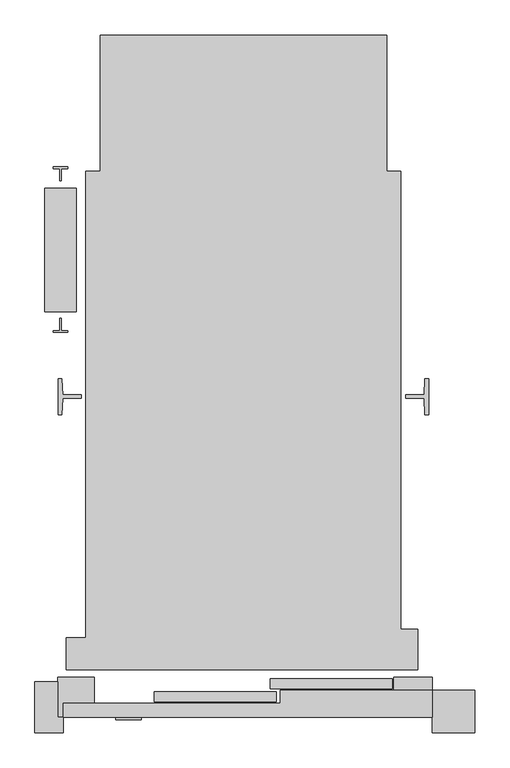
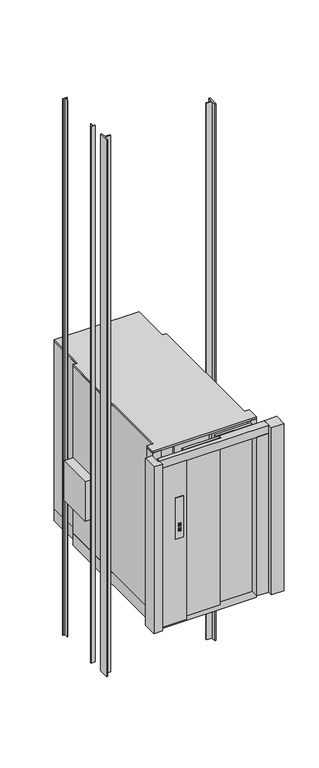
"""IFC4 building model written with IfcOpenShell, lengths in millimetres: proxy geometry, エレベータ住宅用 - トランク付 : 9 人乗."""

from ifc_helpers import new_model, si_unit, frame, origin, origin_with_axes, place, context, project, spatial, polyline, outline, extrude, source, transform, mapped, element, save


def mechanical_equipment_0a9e674c(model_context):
    return source(origin(), model_context, "Body", "SweptSolid", [
        extrude(outline(polyline([(-315.0, 5.0), (-315.0, 41.0), (115.0, 41.0), (115.0, 5.0), (-315.0, 5.0)])), origin_with_axes(), (0.0, 0.0, 1.0), 2100.0),
        extrude(outline(polyline([(95.0, 49.9), (95.0, 85.9), (525.0, 85.9), (525.0, 49.9), (95.0, 49.9)])), origin_with_axes(), (0.0, 0.0, 1.0), 2100.0),
        extrude(outline(polyline([(-315.0, 232.3), (115.0, 232.3), (115.0, 196.3), (-315.0, 196.3), (-315.0, 232.3)])), origin_with_axes(), (0.0, 0.0, 1.0), 2100.0),
        extrude(outline(polyline([(95.0, 187.4), (525.0, 187.4), (525.0, 151.4), (95.0, 151.4), (95.0, 187.4)])), origin_with_axes(), (0.0, 0.0, 1.0), 2100.0),
        extrude(outline(polyline([(665.0, 90.9), (665.0, -49.1), (525.0, -49.1), (525.0, 44.9), (530.0, 44.9), (530.0, 90.9), (665.0, 90.9)])), origin_with_axes(), (0.0, 0.0, 1.0), 2000.0),
        extrude(outline(polyline([(-315.0, -49.1), (-655.0, -49.1), (-655.0, 90.9), (-525.0, 90.9), (-525.0, 0.0), (-315.0, 0.0), (-315.0, -49.1)])), origin_with_axes(), (0.0, 0.0, 1.0), 2000.0),
        extrude(outline(polyline([(665.0, 44.9), (665.0, -49.1), (-635.0, -49.1), (-635.0, 0.0), (130.0, 0.0), (130.0, 44.9), (665.0, 44.9)])), frame((0.0, 0.0, 2000.0), z_axis=(0.0, 0.0, 1.0), x_axis=(1.0, 0.0, 0.0)), (0.0, 0.0, 1.0), 100.0),
        extrude(outline(polyline([(665.0, 44.9), (815.0, 44.9), (815.0, -105.0), (665.0, -105.0), (665.0, 44.9)])), origin_with_axes(), (0.0, 0.0, 1.0), 2100.0),
        extrude(outline(polyline([(-735.0, 75.0), (-655.0, 75.0), (-655.0, -49.1), (-635.0, -49.1), (-635.0, -105.0), (-735.0, -105.0), (-735.0, 75.0)])), origin_with_axes(), (0.0, 0.0, 1.0), 2100.0),
        extrude(outline(polyline([(-295.0, 237.3), (-525.0, 237.3), (-525.0, 118.4), (-625.0, 118.4), (-625.0, 230.0), (-555.0, 230.0), (-555.0, 1875.0), (-505.0, 1875.0), (-505.0, 2355.0), (505.0, 2355.0), (505.0, 1875.0), (555.0, 1875.0), (555.0, 260.0), (615.0, 260.0), (615.0, 118.4), (540.0, 118.4), (540.0, 192.4), (515.0, 192.4), (515.0, 300.0), (525.0, 300.0), (525.0, 1845.0), (475.0, 1845.0), (475.0, 2325.0), (-475.0, 2325.0), (-475.0, 1845.0), (-525.0, 1845.0), (-525.0, 350.0), (-410.0, 350.0), (-295.0, 300.0), (-295.0, 237.3)])), origin_with_axes(), (0.0, 0.0, 1.0), 2100.0),
        extrude(outline(polyline([(-555.0, 230.0), (-555.0, 1875.0), (-505.0, 1875.0), (-505.0, 2355.0), (505.0, 2355.0), (505.0, 1875.0), (555.0, 1875.0), (555.0, 260.0), (615.0, 260.0), (615.0, 118.4), (-625.0, 118.4), (-625.0, 230.0), (-555.0, 230.0)])), frame((0.0, 0.0, -150.0), z_axis=(0.0, 0.0, 1.0), x_axis=(1.0, 0.0, 0.0)), (0.0, 0.0, 1.0), 150.0),
        extrude(outline(polyline([(615.0, 118.4), (-625.0, 118.4), (-625.0, 230.0), (-555.0, 230.0), (-555.0, 1875.0), (-505.0, 1875.0), (-505.0, 2355.0), (505.0, 2355.0), (505.0, 1875.0), (555.0, 1875.0), (555.0, 260.0), (615.0, 260.0), (615.0, 118.4)])), frame((0.0, 0.0, 2100.0), z_axis=(0.0, 0.0, 1.0), x_axis=(1.0, 0.0, 0.0)), (0.0, 0.0, 1.0), 25.0),
        extrude(outline(polyline([(0.0, 1845.0), (-475.0, 1845.0), (-475.0, 1875.0), (0.0, 1875.0), (0.0, 1845.0)])), origin_with_axes(), (0.0, 0.0, 1.0), 1500.0),
        extrude(outline(polyline([(0.0, 1845.0), (0.0, 1875.0), (475.0, 1875.0), (475.0, 1845.0), (0.0, 1845.0)])), origin_with_axes(), (0.0, 0.0, 1.0), 1500.0),
        extrude(outline(polyline([(475.0, 1875.0), (475.0, 1845.0), (-475.0, 1845.0), (-475.0, 1875.0), (475.0, 1875.0)])), frame((0.0, 0.0, 1500.0), z_axis=(0.0, 0.0, 1.0), x_axis=(1.0, 0.0, 0.0)), (0.0, 0.0, 1.0), 600.0),
        extrude(outline(polyline([(1574.9827702, -359.7341332), (1574.9827702, -449.7341332), (1059.9827702, -449.7341332), (1059.9827702, -359.7341332), (1574.9827702, -359.7341332)]), holes=[polyline([(1189.7642913, -389.7341332), (1149.7642913, -389.7341332), (1149.7642913, -419.7341332), (1189.7642913, -419.7341332), (1189.7642913, -389.7341332)]), polyline([(1209.7642913, -419.7341332), (1249.7642913, -419.7341332), (1249.7642913, -389.7341332), (1209.7642913, -389.7341332), (1209.7642913, -419.7341332)])]), frame((0.0, -59.1, 0.0), z_axis=(0.0, 1.0, 0.0), x_axis=(0.0, 0.0, 1.0)), (0.0, 0.0, 1.0), 10.0),
        extrude(outline(polyline([(1249.7642913, -419.7341332), (1209.7642913, -419.7341332), (1209.7642913, -389.7341332), (1249.7642913, -389.7341332), (1249.7642913, -419.7341332)]), holes=[polyline([(1222.4437832, -414.7341332), (1239.7642913, -404.7341332), (1222.4437832, -394.7341332), (1222.4437832, -414.7341332)])]), frame((0.0, -59.1, 0.0), z_axis=(0.0, 1.0, 0.0), x_axis=(0.0, 0.0, 1.0)), (0.0, 0.0, 1.0), 5.0),
        extrude(outline(polyline([(1189.7642913, -419.7341332), (1149.7642913, -419.7341332), (1149.7642913, -389.7341332), (1189.7642913, -389.7341332), (1189.7642913, -419.7341332)]), holes=[polyline([(1177.0847993, -394.7341332), (1159.7642913, -404.7341332), (1177.0847993, -414.7341332), (1177.0847993, -394.7341332)])]), frame((0.0, -59.1, 0.0), z_axis=(0.0, 1.0, 0.0), x_axis=(0.0, 0.0, 1.0)), (0.0, 0.0, 1.0), 5.0),
        extrude(outline(polyline([(1239.7642913, -404.7341332), (1222.4437832, -414.7341332), (1222.4437832, -394.7341332), (1239.7642913, -404.7341332)])), frame((0.0, -59.1, 0.0), z_axis=(0.0, 1.0, 0.0), x_axis=(0.0, 0.0, 1.0)), (0.0, 0.0, 1.0), 5.0),
        extrude(outline(polyline([(1177.0847993, -414.7341332), (1159.7642913, -404.7341332), (1177.0847993, -394.7341332), (1177.0847993, -414.7341332)])), frame((0.0, -59.1, 0.0), z_axis=(0.0, 1.0, 0.0), x_axis=(0.0, 0.0, 1.0)), (0.0, 0.0, 1.0), 5.0),
        extrude(outline(polyline([(-636.9999995, 1073.7521919), (-639.9999995, 1016.5525318), (-652.9999995, 1016.5525318), (-652.9999995, 1143.5525318), (-639.9999995, 1143.5525318), (-637.0862173, 1086.2478081), (-572.0, 1086.2478081), (-572.0, 1073.7521919), (-636.9999995, 1073.7521919)])), frame((0.0, 0.0, -1250.0), z_axis=(0.0, 0.0, 1.0), x_axis=(1.0, 0.0, 0.0)), (0.0, 0.0, 1.0), 6750.0),
        extrude(outline(polyline([(636.9999995, 1073.7521919), (572.0, 1073.7521919), (572.0, 1086.2478081), (637.0862173, 1086.2478081), (639.9999995, 1143.5525318), (652.9999995, 1143.5525318), (652.9999995, 1016.5525318), (639.9999995, 1016.5525318), (636.9999995, 1073.7521919)])), frame((0.0, 0.0, -1250.0), z_axis=(0.0, 0.0, 1.0), x_axis=(1.0, 0.0, 0.0)), (0.0, 0.0, 1.0), 6750.0),
        extrude(outline(polyline([(-642.0, 1840.2601783), (-648.0, 1840.2601783), (-648.0, 1883.7601783), (-670.0, 1883.7601783), (-670.0, 1889.7601783), (-620.0, 1889.7601783), (-620.0, 1883.7601783), (-642.0, 1883.7601783), (-642.0, 1840.2601783)])), frame((0.0, 0.0, -1250.0), z_axis=(0.0, 0.0, 1.0), x_axis=(1.0, 0.0, 0.0)), (0.0, 0.0, 1.0), 6750.0),
        extrude(outline(polyline([(-642.0, 1355.4601783), (-642.0, 1311.9601783), (-620.0, 1311.9601783), (-620.0, 1305.9601783), (-670.0, 1305.9601783), (-670.0, 1311.9601783), (-648.0, 1311.9601783), (-648.0, 1355.4601783), (-642.0, 1355.4601783)])), frame((0.0, 0.0, -1250.0), z_axis=(0.0, 0.0, 1.0), x_axis=(1.0, 0.0, 0.0)), (0.0, 0.0, 1.0), 6750.0),
        extrude(outline(polyline([(-700.0, 1815.9601783), (-590.0, 1815.9601783), (-590.0, 1379.7601783), (-700.0, 1379.7601783), (-700.0, 1815.9601783)])), frame((0.0, 0.0, 500.0), z_axis=(0.0, 0.0, 1.0), x_axis=(1.0, 0.0, 0.0)), (0.0, 0.0, 1.0), 500.0),
    ])


if __name__ == "__main__":
    model = new_model("IFC4")
    model_context = context("Model", 3, world=origin())
    ifc_project = project(units=[si_unit("LENGTHUNIT", "METRE", prefix="MILLI")], contexts=[model_context])
    site = spatial("IfcSite", under=ifc_project)
    building = spatial("IfcBuilding", under=site)
    placement = place(None, origin())
    mechanical_equipment_shape = mechanical_equipment_0a9e674c(model_context)
    element("IfcBuildingElementProxy", 1, Name="エレベータ住宅用 - トランク付 : 9 人乗", ObjectType="エレベータ住宅用 - トランク付 : 9 人乗", at=placement, inside=building, context=model_context, shape_type="MappedRepresentation", body=[
        mapped(mechanical_equipment_shape, transform((0.0, 0.0, 0.0), x_axis=(1.0, 0.0, 0.0), y_axis=(0.0, 1.0, 0.0), z_axis=(0.0, 0.0, 1.0))),
    ])
    save(model, "model.ifc")
